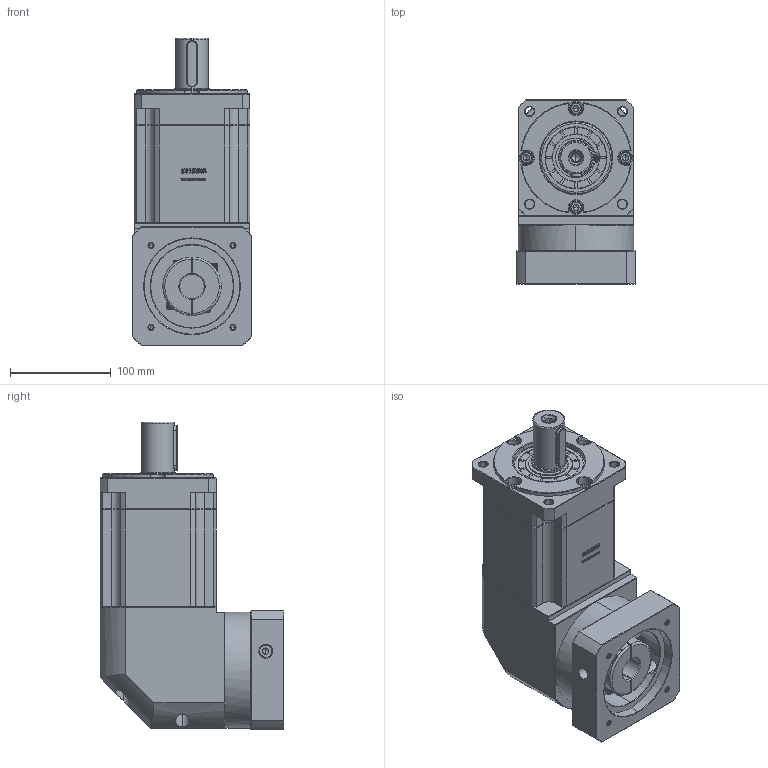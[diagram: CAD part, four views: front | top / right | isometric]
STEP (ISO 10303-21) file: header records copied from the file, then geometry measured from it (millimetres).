
FILE_DESCRIPTION (( 'STEP AP214' ), '1' );
FILE_NAME ('ZBR115A-D32-L3-24-95-115-M6.step', '2023-03-03T05:04:24', ( '' ), ( 'Microsoft' ), 'SwSTEP 2.0', 'SolidWorks 2016', '' );
FILE_SCHEMA (( 'AUTOMOTIVE_DESIGN' ));
Length unit declared in the file: millimetre
Products named in the file (1): ZBR115A-D32-L3-24-95-115-M6
Bounding box: 118 x 182.4 x 305 mm (x, y, z)
Volume: 3533932.5 mm3; surface area: 263843.1 mm2
Topology: 6 solids, 6 shells, 2969 faces, 7868 edges, 5044 vertices
Faces by surface type: plane 1558, bspline 610, cylinder 424, cone 369, torus 8
Entity records: 162291 total; most frequent: CARTESIAN_POINT 60823, ORIENTED_EDGE 15676, DIRECTION 11872, EDGE_CURVE 7838, VECTOR 5286, LINE 5286, VERTEX_POINT 5044, AXIS2_PLACEMENT_3D 3293
